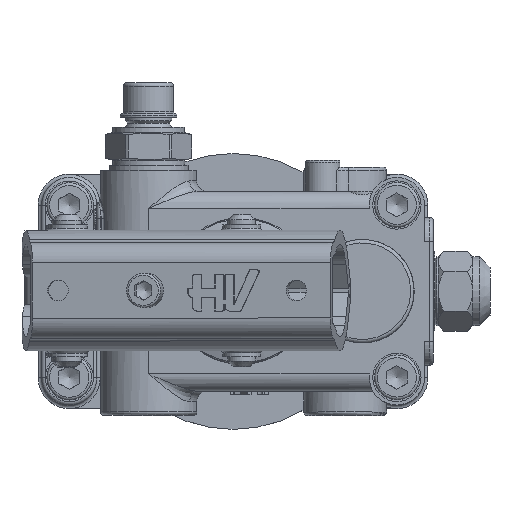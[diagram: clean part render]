
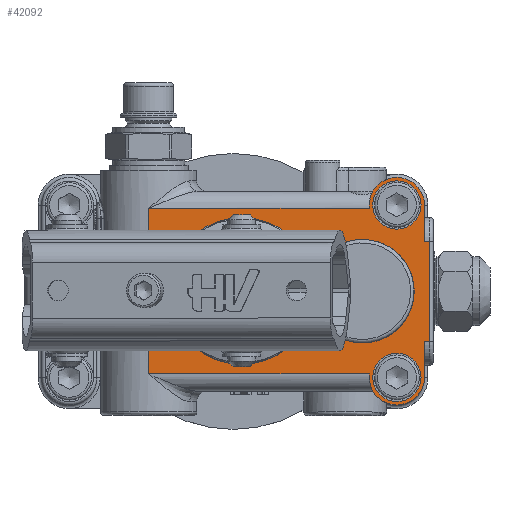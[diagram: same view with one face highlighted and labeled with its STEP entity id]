
A CAD part, top view. The second image highlights one B-rep face of the part: STEP entity #42092.
In plain terms, the highlighted planar face has unit normal (0, 0, 1).
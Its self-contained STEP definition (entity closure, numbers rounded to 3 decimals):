
#36212=CARTESIAN_POINT('',(111.0,9.,43.));
#36213=VERTEX_POINT('',#36212);
#36214=CARTESIAN_POINT('',(104.0,9.,43.));
#36215=DIRECTION('',(0.0,0.0,-1.0));
#36216=DIRECTION('',(1.0,0.0,0.0));
#36217=AXIS2_PLACEMENT_3D('',#36214,#36215,#36216);
#36218=CIRCLE('',#36217,7.);
#36219=EDGE_CURVE('',#36213,#36213,#36218,.T.);
#36252=CARTESIAN_POINT('',(111.,59.,43.));
#36253=VERTEX_POINT('',#36252);
#36254=CARTESIAN_POINT('',(104.,59.,43.));
#36255=DIRECTION('',(0.0,0.0,-1.0));
#36256=DIRECTION('',(1.0,0.0,0.0));
#36257=AXIS2_PLACEMENT_3D('',#36254,#36255,#36256);
#36258=CIRCLE('',#36257,7.);
#36259=EDGE_CURVE('',#36253,#36253,#36258,.T.);
#37714=CARTESIAN_POINT('',(112.,9.,43.));
#37715=VERTEX_POINT('',#37714);
#37722=CARTESIAN_POINT('',(96.0,9.,43.));
#37723=VERTEX_POINT('',#37722);
#37724=CARTESIAN_POINT('',(104.0,9.,43.));
#37725=DIRECTION('',(0.0,0.0,-1.0));
#37726=DIRECTION('',(-1.0,0.0,0.0));
#37727=AXIS2_PLACEMENT_3D('',#37724,#37725,#37726);
#37728=CIRCLE('',#37727,8.0);
#37729=EDGE_CURVE('',#37715,#37723,#37728,.T.);
#37867=CARTESIAN_POINT('',(83.0,23.802,43.));
#37868=VERTEX_POINT('',#37867);
#37876=CARTESIAN_POINT('',(83.0,44.198,43.));
#37877=VERTEX_POINT('',#37876);
#37878=CARTESIAN_POINT('',(94.,34.0,43.));
#37879=DIRECTION('',(0.0,0.0,-1.0));
#37880=DIRECTION('',(-1.0,0.0,0.0));
#37881=AXIS2_PLACEMENT_3D('',#37878,#37879,#37880);
#37882=CIRCLE('',#37881,15.0);
#37883=EDGE_CURVE('',#37877,#37868,#37882,.T.);
#37902=CARTESIAN_POINT('',(83.0,23.802,43.));
#37903=DIRECTION('',(0.0,1.0,0.0));
#37904=VECTOR('',#37903,20.396);
#37905=LINE('',#37902,#37904);
#37906=EDGE_CURVE('',#37868,#37877,#37905,.T.);
#38322=CARTESIAN_POINT('',(96.,59.,43.));
#38323=VERTEX_POINT('',#38322);
#38330=CARTESIAN_POINT('',(112.0,59.,43.));
#38331=VERTEX_POINT('',#38330);
#38332=CARTESIAN_POINT('',(104.,59.,43.));
#38333=DIRECTION('',(0.0,0.0,-1.0));
#38334=DIRECTION('',(1.0,0.0,0.0));
#38335=AXIS2_PLACEMENT_3D('',#38332,#38333,#38334);
#38336=CIRCLE('',#38335,8.0);
#38337=EDGE_CURVE('',#38323,#38331,#38336,.T.);
#38362=CARTESIAN_POINT('',(32.,58.,43.));
#38363=VERTEX_POINT('',#38362);
#38379=CARTESIAN_POINT('',(96.,58.,43.));
#38380=VERTEX_POINT('',#38379);
#38381=CARTESIAN_POINT('',(96.,58.,43.));
#38382=DIRECTION('',(-1.0,0.0,0.0));
#38383=VECTOR('',#38382,64.);
#38384=LINE('',#38381,#38383);
#38385=EDGE_CURVE('',#38380,#38363,#38384,.T.);
#39189=CARTESIAN_POINT('',(32.,44.122,43.));
#39190=VERTEX_POINT('',#39189);
#39201=CARTESIAN_POINT('',(32.0,44.122,43.0));
#39202=DIRECTION('',(0.0,1.0,0.0));
#39203=VECTOR('',#39202,13.878);
#39204=LINE('',#39201,#39203);
#39205=EDGE_CURVE('',#39190,#38363,#39204,.T.);
#39901=CARTESIAN_POINT('',(32.,10.0,43.));
#39902=VERTEX_POINT('',#39901);
#40371=CARTESIAN_POINT('',(32.,23.878,43.));
#40372=VERTEX_POINT('',#40371);
#40373=CARTESIAN_POINT('',(32.0,10.,43.0));
#40374=DIRECTION('',(0.0,1.0,0.0));
#40375=VECTOR('',#40374,13.878);
#40376=LINE('',#40373,#40375);
#40377=EDGE_CURVE('',#39902,#40372,#40376,.T.);
#40470=CARTESIAN_POINT('',(96.0,10.0,43.));
#40471=VERTEX_POINT('',#40470);
#40479=CARTESIAN_POINT('',(96.0,10.0,43.));
#40480=DIRECTION('',(-1.0,0.0,0.0));
#40481=VECTOR('',#40480,64.);
#40482=LINE('',#40479,#40481);
#40483=EDGE_CURVE('',#40471,#39902,#40482,.T.);
#41706=CARTESIAN_POINT('',(113.5,48.5,43.));
#41707=VERTEX_POINT('',#41706);
#41740=CARTESIAN_POINT('',(113.5,19.5,43.));
#41741=VERTEX_POINT('',#41740);
#41752=CARTESIAN_POINT('',(113.5,48.5,43.));
#41753=DIRECTION('',(0.0,-1.0,0.0));
#41754=VECTOR('',#41753,29.);
#41755=LINE('',#41752,#41754);
#41756=EDGE_CURVE('',#41707,#41741,#41755,.T.);
#41979=CARTESIAN_POINT('',(112.0,19.5,43.));
#41980=VERTEX_POINT('',#41979);
#41981=CARTESIAN_POINT('',(112.0,19.5,43.));
#41982=DIRECTION('',(1.0,0.0,0.0));
#41983=VECTOR('',#41982,1.5);
#41984=LINE('',#41981,#41983);
#41985=EDGE_CURVE('',#41980,#41741,#41984,.T.);
#41998=CARTESIAN_POINT('',(104.,34.,43.));
#41999=DIRECTION('',(0.0,0.0,1.0));
#42000=DIRECTION('',(1.0,0.0,0.0));
#42001=AXIS2_PLACEMENT_3D('',#41998,#41999,#42000);
#42002=PLANE('',#42001);
#42003=ORIENTED_EDGE('',*,*,#41756,.F.);
#42004=CARTESIAN_POINT('',(112.,48.5,43.));
#42005=VERTEX_POINT('',#42004);
#42006=CARTESIAN_POINT('',(112.,48.5,43.));
#42007=DIRECTION('',(1.0,0.0,0.0));
#42008=VECTOR('',#42007,1.5);
#42009=LINE('',#42006,#42008);
#42010=EDGE_CURVE('',#42005,#41707,#42009,.T.);
#42011=ORIENTED_EDGE('',*,*,#42010,.F.);
#42012=CARTESIAN_POINT('',(112.0,59.,43.));
#42013=DIRECTION('',(0.0,-1.0,0.0));
#42014=VECTOR('',#42013,10.5);
#42015=LINE('',#42012,#42014);
#42016=EDGE_CURVE('',#38331,#42005,#42015,.T.);
#42017=ORIENTED_EDGE('',*,*,#42016,.F.);
#42018=ORIENTED_EDGE('',*,*,#38337,.F.);
#42019=CARTESIAN_POINT('',(96.,58.,43.));
#42020=DIRECTION('',(0.0,1.0,0.0));
#42021=VECTOR('',#42020,1.);
#42022=LINE('',#42019,#42021);
#42023=EDGE_CURVE('',#38380,#38323,#42022,.T.);
#42024=ORIENTED_EDGE('',*,*,#42023,.F.);
#42025=ORIENTED_EDGE('',*,*,#38385,.T.);
#42026=ORIENTED_EDGE('',*,*,#39205,.F.);
#42027=CARTESIAN_POINT('',(33.732,41.0,43.));
#42028=VERTEX_POINT('',#42027);
#42029=CARTESIAN_POINT('',(33.732,41.0,43.));
#42030=CARTESIAN_POINT('',(33.732,41.528,43.));
#42031=CARTESIAN_POINT('',(33.438,42.767,43.));
#42032=CARTESIAN_POINT('',(32.582,43.719,43.));
#42033=CARTESIAN_POINT('',(32.,44.122,43.));
#42034=B_SPLINE_CURVE_WITH_KNOTS('',3,(#42029,#42030,#42031,#42032,#42033),.UNSPECIFIED.,.F.,.U.,(4,1,4),(2.696,2.855,3.066),.UNSPECIFIED.);
#42035=EDGE_CURVE('',#42028,#39190,#42034,.T.);
#42036=ORIENTED_EDGE('',*,*,#42035,.F.);
#42037=CARTESIAN_POINT('',(33.732,27.,43.));
#42038=VERTEX_POINT('',#42037);
#42039=CARTESIAN_POINT('',(33.732,27.,43.));
#42040=DIRECTION('',(0.0,1.0,0.0));
#42041=VECTOR('',#42040,14.);
#42042=LINE('',#42039,#42041);
#42043=EDGE_CURVE('',#42038,#42028,#42042,.T.);
#42044=ORIENTED_EDGE('',*,*,#42043,.F.);
#42045=CARTESIAN_POINT('',(32.,23.878,43.));
#42046=CARTESIAN_POINT('',(32.433,24.178,43.));
#42047=CARTESIAN_POINT('',(33.336,25.067,43.));
#42048=CARTESIAN_POINT('',(33.732,26.29,43.0));
#42049=CARTESIAN_POINT('',(33.732,27.,43.));
#42050=B_SPLINE_CURVE_WITH_KNOTS('',3,(#42045,#42046,#42047,#42048,#42049),.UNSPECIFIED.,.F.,.U.,(4,1,4),(2.696,2.854,3.065),.UNSPECIFIED.);
#42051=EDGE_CURVE('',#40372,#42038,#42050,.T.);
#42052=ORIENTED_EDGE('',*,*,#42051,.F.);
#42053=ORIENTED_EDGE('',*,*,#40377,.F.);
#42054=ORIENTED_EDGE('',*,*,#40483,.F.);
#42055=CARTESIAN_POINT('',(96.,9.,43.));
#42056=DIRECTION('',(0.0,1.0,0.0));
#42057=VECTOR('',#42056,1.);
#42058=LINE('',#42055,#42057);
#42059=EDGE_CURVE('',#37723,#40471,#42058,.T.);
#42060=ORIENTED_EDGE('',*,*,#42059,.F.);
#42061=ORIENTED_EDGE('',*,*,#37729,.F.);
#42062=CARTESIAN_POINT('',(112.,19.5,43.));
#42063=DIRECTION('',(0.0,-1.0,0.0));
#42064=VECTOR('',#42063,10.5);
#42065=LINE('',#42062,#42064);
#42066=EDGE_CURVE('',#41980,#37715,#42065,.T.);
#42067=ORIENTED_EDGE('',*,*,#42066,.F.);
#42068=ORIENTED_EDGE('',*,*,#41985,.T.);
#42069=EDGE_LOOP('',(#42003,#42011,#42017,#42018,#42024,#42025,#42026,#42036,#42044,#42052,#42053,#42054,#42060,#42061,#42067,#42068));
#42070=FACE_OUTER_BOUND('',#42069,.T.);
#42071=ORIENTED_EDGE('',*,*,#36219,.T.);
#42072=EDGE_LOOP('',(#42071));
#42073=FACE_BOUND('',#42072,.T.);
#42074=ORIENTED_EDGE('',*,*,#36259,.T.);
#42075=EDGE_LOOP('',(#42074));
#42076=FACE_BOUND('',#42075,.T.);
#42077=ORIENTED_EDGE('',*,*,#37883,.T.);
#42078=ORIENTED_EDGE('',*,*,#37906,.T.);
#42079=EDGE_LOOP('',(#42077,#42078));
#42080=FACE_BOUND('',#42079,.T.);
#42081=CARTESIAN_POINT('',(46.28,21.264,43.));
#42082=VERTEX_POINT('',#42081);
#42083=CARTESIAN_POINT('',(59.,34.0,43.));
#42084=DIRECTION('',(0.0,0.0,1.0));
#42085=DIRECTION('',(0.707,0.708,0.0));
#42086=AXIS2_PLACEMENT_3D('',#42083,#42084,#42085);
#42087=CIRCLE('',#42086,18.);
#42088=EDGE_CURVE('',#42082,#42082,#42087,.T.);
#42089=ORIENTED_EDGE('',*,*,#42088,.F.);
#42090=EDGE_LOOP('',(#42089));
#42091=FACE_BOUND('',#42090,.T.);
#42092=ADVANCED_FACE('',(#42070,#42073,#42076,#42080,#42091),#42002,.T.);
